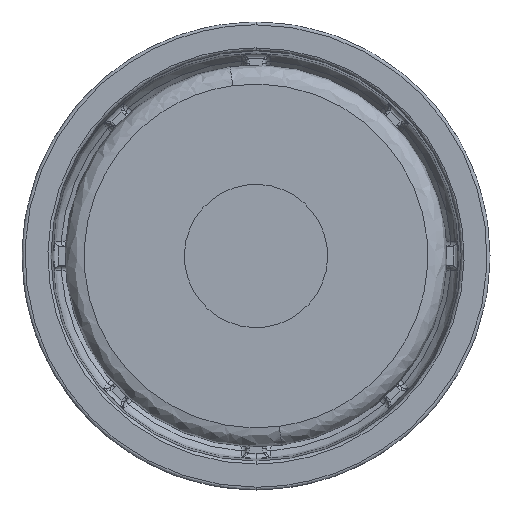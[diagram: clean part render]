
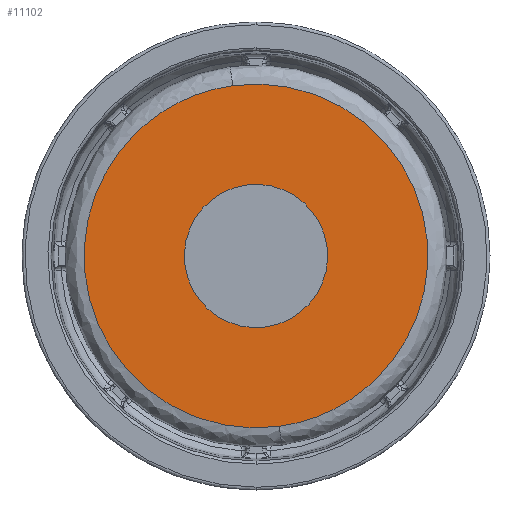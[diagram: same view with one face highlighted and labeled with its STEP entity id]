
A CAD part, front view. The second image highlights one B-rep face of the part: STEP entity #11102.
In plain terms, the highlighted planar face has unit normal (0, -1, 0).
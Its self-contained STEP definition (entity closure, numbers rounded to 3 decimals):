
#97 = CARTESIAN_POINT ( 'NONE',  ( 7.431, -0.5, 1.012 ) ) ;
#382 = EDGE_LOOP ( 'NONE', ( #6704, #5938 ) ) ;
#586 = VERTEX_POINT ( 'NONE', #7197 ) ;
#830 = CIRCLE ( 'NONE', #9188, 7.5 ) ;
#1397 = ORIENTED_EDGE ( 'NONE', *, *, #12991, .F. ) ;
#1636 = FACE_BOUND ( 'NONE', #382, .T. ) ;
#2884 = CIRCLE ( 'NONE', #17300, 7.5 ) ;
#2904 = DIRECTION ( 'NONE',  ( 0.135, 0., -0.991 ) ) ;
#3452 = AXIS2_PLACEMENT_3D ( 'NONE', #97, #16803, #2904 ) ;
#3917 = CARTESIAN_POINT ( 'NONE',  ( -2.43, -0.5, 17.835 ) ) ;
#3944 = VERTEX_POINT ( 'NONE', #5911 ) ;
#4947 = DIRECTION ( 'NONE',  ( 0.135, 0., -0.991 ) ) ;
#5216 = VERTEX_POINT ( 'NONE', #9486 ) ;
#5220 = CARTESIAN_POINT ( 'NONE',  ( 33.241, -0.5, 22.695 ) ) ;
#5811 = DIRECTION ( 'NONE',  ( 0.135, 0., -0.991 ) ) ;
#5909 = EDGE_CURVE ( 'NONE', #3944, #5216, #830, .T. ) ;
#5911 = CARTESIAN_POINT ( 'NONE',  ( -1.012, -0.5, 7.431 ) ) ;
#5938 = ORIENTED_EDGE ( 'NONE', *, *, #5909, .T. ) ;
#6704 = ORIENTED_EDGE ( 'NONE', *, *, #11873, .T. ) ;
#7197 = CARTESIAN_POINT ( 'NONE',  ( -2.43, -0.5, 17.835 ) ) ;
#8057 = CARTESIAN_POINT ( 'NONE',  ( 2.43, -0.5, -17.835 ) ) ;
#9188 = AXIS2_PLACEMENT_3D ( 'NONE', #10348, #14607, #4947 ) ;
#9486 = CARTESIAN_POINT ( 'NONE',  ( 1.012, -0.5, -7.431 ) ) ;
#9691 = DIRECTION ( 'NONE',  ( 0., 1., 0. ) ) ;
#10348 = CARTESIAN_POINT ( 'NONE',  ( 0., -0.5, 0. ) ) ;
#11102 = ADVANCED_FACE ( 'NONE', ( #1636, #12468 ), #16529, .T. ) ;
#11132 = CARTESIAN_POINT ( 'NONE',  ( 0., -0.5, 0. ) ) ;
#11527 =( BOUNDED_CURVE ( )  B_SPLINE_CURVE ( 3, ( #15142, #5220, #17592, #13518 ),
 .UNSPECIFIED., .F., .F. ) 
 B_SPLINE_CURVE_WITH_KNOTS ( ( 4, 4 ),
 ( 0., 1. ),
 .UNSPECIFIED. ) 
 CURVE ( )  GEOMETRIC_REPRESENTATION_ITEM ( )  RATIONAL_B_SPLINE_CURVE ( ( 1., 0.333, 0.333, 1. ) ) 
 REPRESENTATION_ITEM ( '' )  );
#11608 = ORIENTED_EDGE ( 'NONE', *, *, #16983, .F. ) ;
#11852 = CARTESIAN_POINT ( 'NONE',  ( -38.1, -0.5, 12.976 ) ) ;
#11873 = EDGE_CURVE ( 'NONE', #5216, #3944, #2884, .T. ) ;
#12209 = CARTESIAN_POINT ( 'NONE',  ( -33.241, -0.5, -22.695 ) ) ;
#12468 = FACE_OUTER_BOUND ( 'NONE', #16210, .T. ) ;
#12991 = EDGE_CURVE ( 'NONE', #16202, #586, #15437, .T. ) ;
#13518 = CARTESIAN_POINT ( 'NONE',  ( 2.43, -0.5, -17.835 ) ) ;
#14607 = DIRECTION ( 'NONE',  ( 0., 1., 0. ) ) ;
#15142 = CARTESIAN_POINT ( 'NONE',  ( -2.43, -0.5, 17.835 ) ) ;
#15437 =( BOUNDED_CURVE ( )  B_SPLINE_CURVE ( 3, ( #8057, #12209, #11852, #3917 ),
 .UNSPECIFIED., .F., .F. ) 
 B_SPLINE_CURVE_WITH_KNOTS ( ( 4, 4 ),
 ( 0., 1. ),
 .UNSPECIFIED. ) 
 CURVE ( )  GEOMETRIC_REPRESENTATION_ITEM ( )  RATIONAL_B_SPLINE_CURVE ( ( 1., 0.333, 0.333, 1. ) ) 
 REPRESENTATION_ITEM ( '' )  );
#16202 = VERTEX_POINT ( 'NONE', #17507 ) ;
#16210 = EDGE_LOOP ( 'NONE', ( #11608, #1397 ) ) ;
#16529 = PLANE ( 'NONE',  #3452 ) ;
#16803 = DIRECTION ( 'NONE',  ( 0., -1., 0. ) ) ;
#16983 = EDGE_CURVE ( 'NONE', #586, #16202, #11527, .T. ) ;
#17300 = AXIS2_PLACEMENT_3D ( 'NONE', #11132, #9691, #5811 ) ;
#17507 = CARTESIAN_POINT ( 'NONE',  ( 2.43, -0.5, -17.835 ) ) ;
#17592 = CARTESIAN_POINT ( 'NONE',  ( 38.1, -0.5, -12.976 ) ) ;
